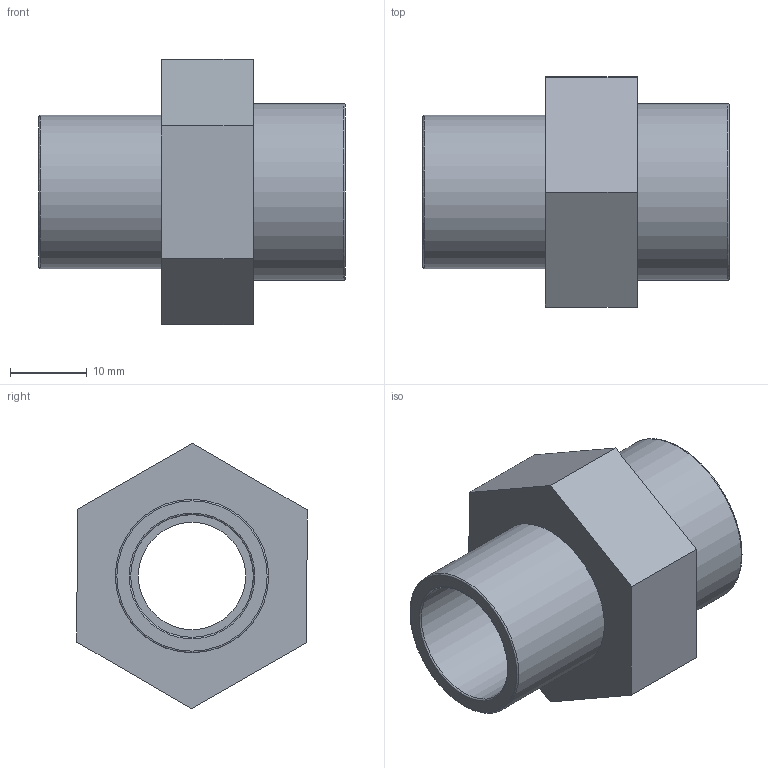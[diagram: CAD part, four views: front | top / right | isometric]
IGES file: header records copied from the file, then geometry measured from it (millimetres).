
Global section: file name: 050302020005.ipt; native system: Autodesk Inventor 2015; preprocessor: unknown; author: KIM; date: 20171207.164401; units: millimetre
Bounding box: 40 x 30.05 x 34.64 mm (x, y, z)
Volume: 10575.1 mm3; surface area: 6444.2 mm2
Topology: 1 solids, 1 shells, 21 faces, 55 edges, 40 vertices
Faces by surface type: plane 12, revolution 7, cylinder 2
Full cylindrical faces by diameter (mm): 20 x1, 23 x1
